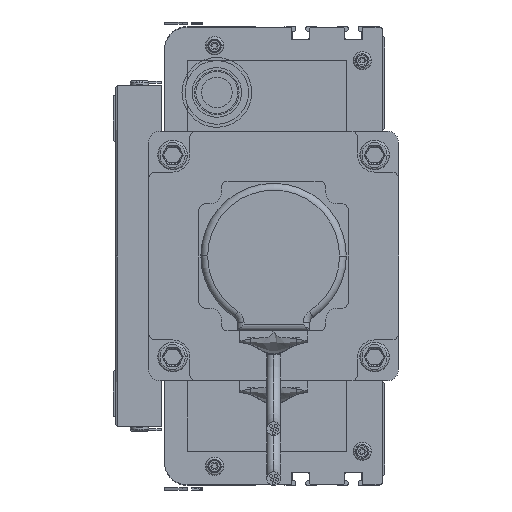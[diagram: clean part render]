
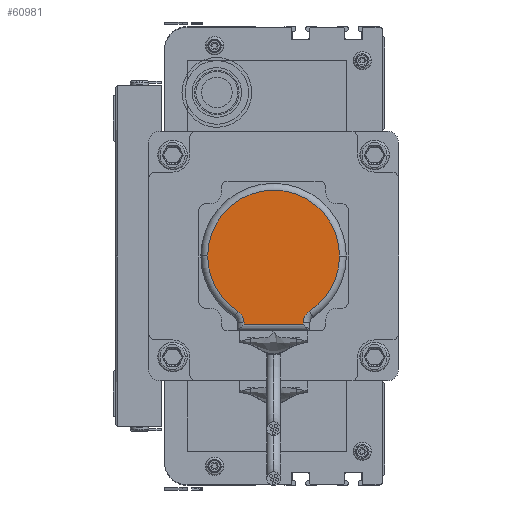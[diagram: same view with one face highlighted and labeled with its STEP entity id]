
A CAD part, left-side view. The second image highlights one B-rep face of the part: STEP entity #60981.
In plain terms, the highlighted planar face has unit normal (-1, 0, 0) as drawn and (0, 0, 1) by its records, which use the part's own axes.
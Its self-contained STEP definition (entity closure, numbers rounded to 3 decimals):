
#10624 = DIRECTION ( 'NONE',  ( 1., 0., 0. ) ) ;
#10625 = AXIS2_PLACEMENT_3D ( 'NONE', #10646, #10647, #10624 ) ;
#10646 = CARTESIAN_POINT ( 'NONE',  ( 33., 33., 25. ) ) ;
#10647 = DIRECTION ( 'NONE',  ( 0., 0., 1. ) ) ;
#10648 = CIRCLE ( 'NONE', #10625, 29. ) ;
#10657 = VECTOR ( 'NONE', #10660, 1000. ) ;
#10660 = DIRECTION ( 'NONE',  ( 0., 1., 0. ) ) ;
#10661 = CARTESIAN_POINT ( 'NONE',  ( 46., 33., 25. ) ) ;
#10662 = DIRECTION ( 'NONE',  ( 1., 0., 0. ) ) ;
#10677 = DIRECTION ( 'NONE',  ( 0., 0., 1. ) ) ;
#10678 = CARTESIAN_POINT ( 'NONE',  ( 52., 62.394, 25. ) ) ;
#10679 = AXIS2_PLACEMENT_3D ( 'NONE', #10678, #10677, #10662 ) ;
#10680 = CIRCLE ( 'NONE', #10679, 6. ) ;
#10685 = CARTESIAN_POINT ( 'NONE',  ( 46., 63., 25. ) ) ;
#10687 = LINE ( 'NONE', #10661, #10657 ) ;
#10741 = CARTESIAN_POINT ( 'NONE',  ( 17.5, 63., 25. ) ) ;
#10742 = LINE ( 'NONE', #10741, #10800 ) ;
#10775 = DIRECTION ( 'NONE',  ( 0., -1., 0. ) ) ;
#10776 = VECTOR ( 'NONE', #10775, 1000. ) ;
#10777 = CARTESIAN_POINT ( 'NONE',  ( 20., 33., 25. ) ) ;
#10778 = LINE ( 'NONE', #10777, #10776 ) ;
#10799 = DIRECTION ( 'NONE',  ( -1., 0., 0. ) ) ;
#10800 = VECTOR ( 'NONE', #10799, 1000. ) ;
#10916 = CARTESIAN_POINT ( 'NONE',  ( 46., 62.394, 25. ) ) ;
#10917 = DIRECTION ( 'NONE',  ( 1., 0., 0. ) ) ;
#10918 = DIRECTION ( 'NONE',  ( 0., 0., 1. ) ) ;
#10919 = AXIS2_PLACEMENT_3D ( 'NONE', #10935, #10918, #10917 ) ;
#10931 = CARTESIAN_POINT ( 'NONE',  ( 20., 62.394, 25. ) ) ;
#10935 = CARTESIAN_POINT ( 'NONE',  ( 14., 62.394, 25. ) ) ;
#10936 = CARTESIAN_POINT ( 'NONE',  ( 20., 63., 25. ) ) ;
#10943 = CIRCLE ( 'NONE', #10919, 6. ) ;
#10957 = CARTESIAN_POINT ( 'NONE',  ( 48.743, 57.355, 25. ) ) ;
#60924 = EDGE_LOOP ( 'NONE', ( #60982, #149723, #149641, #149718, #149716, #149652, #149688, #149693 ) ) ;
#60927 = EDGE_CURVE ( 'NONE', #60942, #60994, #61976, .T. ) ;
#60938 = VERTEX_POINT ( 'NONE', #61904 ) ;
#60941 = EDGE_CURVE ( 'NONE', #60938, #60942, #62040, .T. ) ;
#60942 = VERTEX_POINT ( 'NONE', #62030 ) ;
#60981 = ADVANCED_FACE ( 'NONE', ( #62157 ), #62253, .T. ) ;
#60982 = ORIENTED_EDGE ( 'NONE', *, *, #149712, .F. ) ;
#60994 = VERTEX_POINT ( 'NONE', #62327 ) ;
#61839 = CARTESIAN_POINT ( 'NONE',  ( 33., 33., 25. ) ) ;
#61904 = CARTESIAN_POINT ( 'NONE',  ( 17.257, 57.355, 25. ) ) ;
#61906 = AXIS2_PLACEMENT_3D ( 'NONE', #62025, #62023, #62022 ) ;
#61970 = DIRECTION ( 'NONE',  ( 1., 0., 0. ) ) ;
#61972 = DIRECTION ( 'NONE',  ( 0., 0., 1. ) ) ;
#61974 = AXIS2_PLACEMENT_3D ( 'NONE', #61839, #61972, #61970 ) ;
#61976 = CIRCLE ( 'NONE', #61974, 29. ) ;
#62022 = DIRECTION ( 'NONE',  ( 1., 0., 0. ) ) ;
#62023 = DIRECTION ( 'NONE',  ( 0., 0., 1. ) ) ;
#62025 = CARTESIAN_POINT ( 'NONE',  ( 33., 33., 25. ) ) ;
#62030 = CARTESIAN_POINT ( 'NONE',  ( 4., 33., 25. ) ) ;
#62040 = CIRCLE ( 'NONE', #61906, 29. ) ;
#62157 = FACE_OUTER_BOUND ( 'NONE', #60924, .T. ) ;
#62209 = DIRECTION ( 'NONE',  ( 1., 0., 0. ) ) ;
#62210 = DIRECTION ( 'NONE',  ( 0., 0., 1. ) ) ;
#62212 = CARTESIAN_POINT ( 'NONE',  ( 33., 33., 25. ) ) ;
#62229 = AXIS2_PLACEMENT_3D ( 'NONE', #62212, #62210, #62209 ) ;
#62253 = PLANE ( 'NONE',  #62229 ) ;
#62327 = CARTESIAN_POINT ( 'NONE',  ( 62., 33., 25. ) ) ;
#149638 = EDGE_CURVE ( 'NONE', #60994, #149721, #10648, .T. ) ;
#149641 = ORIENTED_EDGE ( 'NONE', *, *, #60927, .T. ) ;
#149642 = VERTEX_POINT ( 'NONE', #10685 ) ;
#149644 = EDGE_CURVE ( 'NONE', #149720, #149721, #10680, .T. ) ;
#149648 = EDGE_CURVE ( 'NONE', #149720, #149642, #10687, .T. ) ;
#149652 = ORIENTED_EDGE ( 'NONE', *, *, #149648, .T. ) ;
#149683 = EDGE_CURVE ( 'NONE', #149642, #149713, #10742, .T. ) ;
#149688 = ORIENTED_EDGE ( 'NONE', *, *, #149683, .T. ) ;
#149689 = EDGE_CURVE ( 'NONE', #149713, #149719, #10778, .T. ) ;
#149693 = ORIENTED_EDGE ( 'NONE', *, *, #149689, .T. ) ;
#149712 = EDGE_CURVE ( 'NONE', #60938, #149719, #10943, .T. ) ;
#149713 = VERTEX_POINT ( 'NONE', #10936 ) ;
#149716 = ORIENTED_EDGE ( 'NONE', *, *, #149644, .F. ) ;
#149718 = ORIENTED_EDGE ( 'NONE', *, *, #149638, .T. ) ;
#149719 = VERTEX_POINT ( 'NONE', #10931 ) ;
#149720 = VERTEX_POINT ( 'NONE', #10916 ) ;
#149721 = VERTEX_POINT ( 'NONE', #10957 ) ;
#149723 = ORIENTED_EDGE ( 'NONE', *, *, #60941, .T. ) ;
